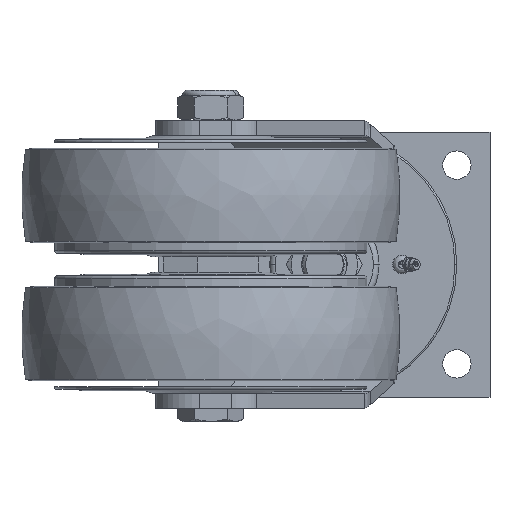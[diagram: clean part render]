
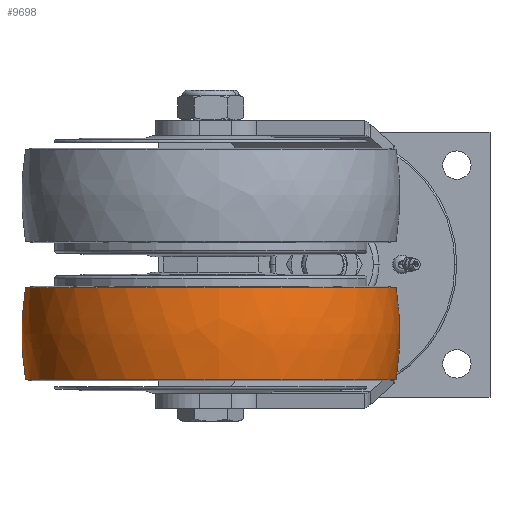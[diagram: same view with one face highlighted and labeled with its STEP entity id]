
A CAD part, left-side view. The second image highlights one B-rep face of the part: STEP entity #9698.
In plain terms, the highlighted free-form (B-spline) face has degree [3, 3] with [7, 4] control points.
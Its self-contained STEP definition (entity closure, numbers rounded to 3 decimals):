
#8968=CARTESIAN_POINT('',(-157.819,11.6,-36.5));
#8969=DIRECTION('',(0.999,0.045,0.));
#8970=DIRECTION('',(-0.044,0.986,-0.164));
#8971=AXIS2_PLACEMENT_3D('',#8968,#8969,#8970);
#8973=CARTESIAN_POINT('',(-162.181,108.4,-36.5));
#8974=DIRECTION('',(-0.999,-0.045,0.));
#8975=DIRECTION('',(0.044,-0.986,-0.164));
#8976=AXIS2_PLACEMENT_3D('',#8973,#8974,#8975);
#8978=CARTESIAN_POINT('',(-160.,60.,-60.786));
#8979=DIRECTION('',(0.,0.,-1.));
#8980=DIRECTION('',(0.045,-0.999,0.));
#8981=AXIS2_PLACEMENT_3D('',#8978,#8979,#8980);
#8996=CARTESIAN_POINT('',(-160.,60.,-12.214));
#8997=DIRECTION('',(0.,0.,-1.));
#8998=DIRECTION('',(0.045,-0.999,0.));
#8999=AXIS2_PLACEMENT_3D('',#8996,#8997,#8998);
#9438=CARTESIAN_POINT('',(-164.412,157.901,
-60.786));
#9439=CARTESIAN_POINT('',(-155.588,-37.901,
-60.786));
#9440=VERTEX_POINT('',#9438);
#9441=VERTEX_POINT('',#9439);
#9442=CARTESIAN_POINT('',(-164.412,157.901,
-12.214));
#9443=CARTESIAN_POINT('',(-155.588,-37.901,
-12.214));
#9444=VERTEX_POINT('',#9442);
#9445=VERTEX_POINT('',#9443);
#9661=CARTESIAN_POINT('',(-158.259,157.822,
-61.748));
#9662=CARTESIAN_POINT('',(-158.208,160.712,
-44.998));
#9663=CARTESIAN_POINT('',(-158.208,160.712,
-28.002));
#9664=CARTESIAN_POINT('',(-158.259,157.822,
-11.252));
#9665=CARTESIAN_POINT('',(-218.459,158.893,
-61.748));
#9666=CARTESIAN_POINT('',(-220.186,161.815,
-44.998));
#9667=CARTESIAN_POINT('',(-220.186,161.815,
-28.002));
#9668=CARTESIAN_POINT('',(-218.459,158.893,
-11.252));
#9669=CARTESIAN_POINT('',(-260.449,115.743,
-61.748));
#9670=CARTESIAN_POINT('',(-263.417,117.39,
-44.998));
#9671=CARTESIAN_POINT('',(-263.417,117.39,
-28.002));
#9672=CARTESIAN_POINT('',(-260.449,115.743,
-11.252));
#9673=CARTESIAN_POINT('',(-257.738,55.595,
-61.748));
#9674=CARTESIAN_POINT('',(-260.626,55.465,
-44.998));
#9675=CARTESIAN_POINT('',(-260.626,55.465,
-28.002));
#9676=CARTESIAN_POINT('',(-257.738,55.595,
-11.252));
#9677=CARTESIAN_POINT('',(-255.027,-4.553,
-61.748));
#9678=CARTESIAN_POINT('',(-257.835,-6.46,
-44.998));
#9679=CARTESIAN_POINT('',(-257.835,-6.46,
-28.002));
#9680=CARTESIAN_POINT('',(-255.027,-4.553,
-11.252));
#9681=CARTESIAN_POINT('',(-209.326,-43.751,
-61.748));
#9682=CARTESIAN_POINT('',(-210.783,-46.816,
-44.998));
#9683=CARTESIAN_POINT('',(-210.783,-46.816,
-28.002));
#9684=CARTESIAN_POINT('',(-209.326,-43.751,
-11.252));
#9685=CARTESIAN_POINT('',(-149.467,-37.269,
-61.748));
#9686=CARTESIAN_POINT('',(-149.155,-40.143,
-44.998));
#9687=CARTESIAN_POINT('',(-149.155,-40.143,
-28.002));
#9688=CARTESIAN_POINT('',(-149.467,-37.269,
-11.252));
#9689=(BOUNDED_SURFACE()B_SPLINE_SURFACE(3,3,((#9661,#9662,#9663,#9664),(#9665,
#9666,#9667,#9668),(#9669,#9670,#9671,#9672),(#9673,#9674,#9675,#9676),(#9677,
#9678,#9679,#9680),(#9681,#9682,#9683,#9684),(#9685,#9686,#9687,#9688)),
.UNSPECIFIED.,.F.,.F.,.F.)B_SPLINE_SURFACE_WITH_KNOTS((4,3,4),(4,4),(0.,1.,
2.),(0.,1.),.UNSPECIFIED.)GEOMETRIC_REPRESENTATION_ITEM()RATIONAL_B_SPLINE_SURFACE(((1.196,1.184,1.184,1.196),(
0.944,0.935,0.935,0.944),(
0.944,0.935,0.935,0.944),(
1.196,1.184,1.184,1.196),(
0.944,0.935,0.935,0.944),(
0.944,0.935,0.935,0.944),(
1.196,1.184,1.184,1.196)))REPRESENTATION_ITEM('')SURFACE());
#9691=ORIENTED_EDGE('',*,*,#9690,.T.);
#9692=ORIENTED_EDGE('',*,*,#9649,.T.);
#9694=ORIENTED_EDGE('',*,*,#9693,.F.);
#9695=ORIENTED_EDGE('',*,*,#9645,.F.);
#9696=EDGE_LOOP('',(#9691,#9692,#9694,#9695));
#9697=FACE_OUTER_BOUND('',#9696,.F.);
#8972=CIRCLE('',#8971,148.449);
#8977=CIRCLE('',#8976,148.449);
#8982=CIRCLE('',#8981,98.);
#9000=CIRCLE('',#8999,98.);
#9645=EDGE_CURVE('',#9441,#9445,#8977,.T.);
#9649=EDGE_CURVE('',#9440,#9444,#8972,.T.);
#9690=EDGE_CURVE('',#9441,#9440,#8982,.T.);
#9693=EDGE_CURVE('',#9445,#9444,#9000,.T.);
#9698=ADVANCED_FACE('',(#9697),#9689,.T.);
